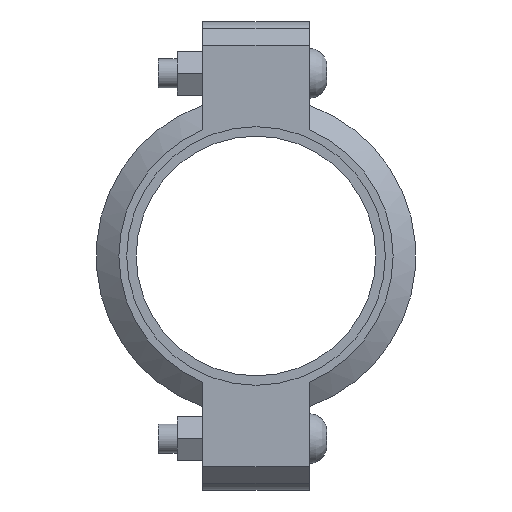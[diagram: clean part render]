
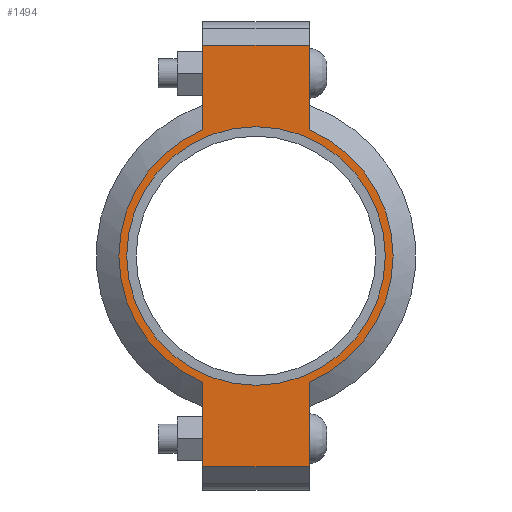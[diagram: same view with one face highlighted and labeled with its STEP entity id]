
A CAD part, left-side view. The second image highlights one B-rep face of the part: STEP entity #1494.
In plain terms, the highlighted planar face has unit normal (-1, 0, 0) as drawn and (0, 0, 1) by its records, which use the part's own axes.
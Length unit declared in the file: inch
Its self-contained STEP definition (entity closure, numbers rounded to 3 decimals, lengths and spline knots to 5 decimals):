
#118=LINE('',#2607,#211);
#126=LINE('',#2643,#219);
#133=LINE('',#2664,#226);
#142=LINE('',#2696,#235);
#143=LINE('',#2700,#236);
#144=LINE('',#2702,#237);
#211=VECTOR('',#2135,0.3937);
#219=VECTOR('',#2151,0.3937);
#226=VECTOR('',#2170,0.3937);
#235=VECTOR('',#2195,0.3937);
#236=VECTOR('',#2200,0.3937);
#237=VECTOR('',#2201,0.3937);
#293=FACE_BOUND('',#471,.T.);
#365=FACE_OUTER_BOUND('',#470,.T.);
#470=EDGE_LOOP('',(#1235,#1236,#1237,#1238,#1239,#1240,#1241,#1242));
#471=EDGE_LOOP('',(#1243));
#543=CIRCLE('',#1713,2.7815);
#569=CIRCLE('',#1772,2.95);
#570=CIRCLE('',#1773,2.95);
#635=VERTEX_POINT('',#2423);
#678=VERTEX_POINT('',#2604);
#679=VERTEX_POINT('',#2606);
#690=VERTEX_POINT('',#2638);
#691=VERTEX_POINT('',#2642);
#698=VERTEX_POINT('',#2661);
#699=VERTEX_POINT('',#2663);
#709=VERTEX_POINT('',#2699);
#710=VERTEX_POINT('',#2701);
#791=EDGE_CURVE('',#635,#635,#543,.T.);
#852=EDGE_CURVE('',#679,#678,#118,.T.);
#866=EDGE_CURVE('',#691,#690,#126,.T.);
#876=EDGE_CURVE('',#699,#698,#133,.T.);
#891=EDGE_CURVE('',#691,#678,#142,.T.);
#892=EDGE_CURVE('',#690,#699,#569,.T.);
#893=EDGE_CURVE('',#709,#698,#143,.T.);
#894=EDGE_CURVE('',#709,#710,#144,.T.);
#895=EDGE_CURVE('',#710,#679,#570,.T.);
#1235=ORIENTED_EDGE('',*,*,#891,.F.);
#1236=ORIENTED_EDGE('',*,*,#866,.T.);
#1237=ORIENTED_EDGE('',*,*,#892,.T.);
#1238=ORIENTED_EDGE('',*,*,#876,.T.);
#1239=ORIENTED_EDGE('',*,*,#893,.F.);
#1240=ORIENTED_EDGE('',*,*,#894,.T.);
#1241=ORIENTED_EDGE('',*,*,#895,.T.);
#1242=ORIENTED_EDGE('',*,*,#852,.T.);
#1243=ORIENTED_EDGE('',*,*,#791,.T.);
#1336=PLANE('',#1771);
#1494=ADVANCED_FACE('',(#365,#293),#1336,.T.);
#1713=AXIS2_PLACEMENT_3D('',#2425,#2011,#2012);
#1771=AXIS2_PLACEMENT_3D('',#2697,#2196,#2197);
#1772=AXIS2_PLACEMENT_3D('',#2698,#2198,#2199);
#1773=AXIS2_PLACEMENT_3D('',#2703,#2202,#2203);
#2011=DIRECTION('center_axis',(0.,0.,-1.));
#2012=DIRECTION('ref_axis',(-1.,0.,0.));
#2135=DIRECTION('',(-1.,0.,0.));
#2151=DIRECTION('',(1.,0.,0.));
#2170=DIRECTION('',(1.,0.,0.));
#2195=DIRECTION('',(0.,1.,0.));
#2196=DIRECTION('center_axis',(0.,0.,1.));
#2197=DIRECTION('ref_axis',(1.,0.,0.));
#2198=DIRECTION('center_axis',(0.,0.,1.));
#2199=DIRECTION('ref_axis',(-1.,0.,0.));
#2200=DIRECTION('',(0.,-1.,0.));
#2201=DIRECTION('',(-1.,0.,0.));
#2202=DIRECTION('center_axis',(0.,0.,1.));
#2203=DIRECTION('ref_axis',(-1.,0.,0.));
#2423=CARTESIAN_POINT('',(2.7815,0.,1.065));
#2425=CARTESIAN_POINT('Origin',(0.,0.,1.065));
#2604=CARTESIAN_POINT('',(-4.535,1.15,1.065));
#2606=CARTESIAN_POINT('',(-2.71662,1.15,1.065));
#2607=CARTESIAN_POINT('',(-5.035,1.15,1.065));
#2638=CARTESIAN_POINT('',(-2.71662,-1.15,1.065));
#2642=CARTESIAN_POINT('',(-4.535,-1.15,1.065));
#2643=CARTESIAN_POINT('',(5.035,-1.15,1.065));
#2661=CARTESIAN_POINT('',(4.535,-1.15,1.065));
#2663=CARTESIAN_POINT('',(2.71662,-1.15,1.065));
#2664=CARTESIAN_POINT('',(5.035,-1.15,1.065));
#2696=CARTESIAN_POINT('',(-4.535,0.575,1.065));
#2697=CARTESIAN_POINT('Origin',(0.,0.,1.065));
#2698=CARTESIAN_POINT('Origin',(0.,0.,1.065));
#2699=CARTESIAN_POINT('',(4.535,1.15,1.065));
#2700=CARTESIAN_POINT('',(4.535,-0.575,1.065));
#2701=CARTESIAN_POINT('',(2.71662,1.15,1.065));
#2702=CARTESIAN_POINT('',(-5.035,1.15,1.065));
#2703=CARTESIAN_POINT('Origin',(0.,0.,1.065));
